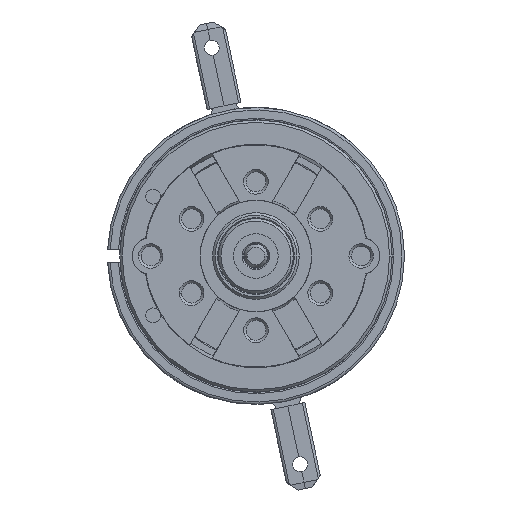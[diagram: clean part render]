
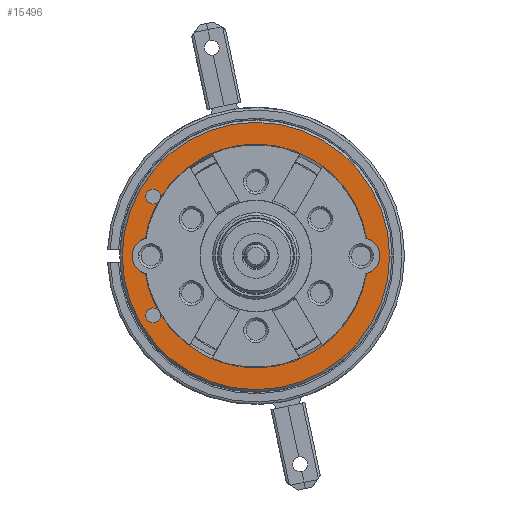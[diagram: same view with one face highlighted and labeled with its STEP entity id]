
A CAD part, left-side view. The second image highlights one B-rep face of the part: STEP entity #15496.
In plain terms, the highlighted planar face has unit normal (-1, 0, 0).
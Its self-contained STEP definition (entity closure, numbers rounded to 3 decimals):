
#4992=CARTESIAN_POINT('',(-29.2,0.,0.));
#4993=DIRECTION('',(-1.,0.,0.));
#4994=DIRECTION('',(0.,1.,0.));
#4995=AXIS2_PLACEMENT_3D('',#4992,#4993,#4994);
#5000=CARTESIAN_POINT('',(-29.2,0.,0.));
#5001=DIRECTION('',(-1.,0.,0.));
#5002=DIRECTION('',(0.,-1.,0.));
#5003=AXIS2_PLACEMENT_3D('',#5000,#5001,#5002);
#5008=CARTESIAN_POINT('',(-29.2,8.31,-4.8));
#5009=DIRECTION('',(-1.,0.,0.));
#5010=DIRECTION('',(0.,1.,0.));
#5011=AXIS2_PLACEMENT_3D('',#5008,#5009,#5010);
#5016=CARTESIAN_POINT('',(-29.2,8.31,-4.8));
#5017=DIRECTION('',(-1.,0.,0.));
#5018=DIRECTION('',(0.,-1.,0.));
#5019=AXIS2_PLACEMENT_3D('',#5016,#5017,#5018);
#5024=CARTESIAN_POINT('',(-29.2,0.,0.));
#5025=DIRECTION('',(1.,0.,0.));
#5026=DIRECTION('',(0.,-0.987,-0.159));
#5027=AXIS2_PLACEMENT_3D('',#5024,#5025,#5026);
#5032=CARTESIAN_POINT('',(-29.2,-8.5,0.));
#5033=DIRECTION('',(-1.,0.,0.));
#5034=DIRECTION('',(0.,-0.29,-0.957));
#5035=AXIS2_PLACEMENT_3D('',#5032,#5033,#5034);
#5040=CARTESIAN_POINT('',(-29.2,0.,0.));
#5041=DIRECTION('',(1.,0.,0.));
#5042=DIRECTION('',(0.,0.852,0.523));
#5043=AXIS2_PLACEMENT_3D('',#5040,#5041,#5042);
#5048=CARTESIAN_POINT('',(-29.2,8.31,4.8));
#5049=DIRECTION('',(1.,0.,0.));
#5050=DIRECTION('',(0.,-1.,0.));
#5051=AXIS2_PLACEMENT_3D('',#5048,#5049,#5050);
#5056=CARTESIAN_POINT('',(-29.2,8.31,4.8));
#5057=DIRECTION('',(1.,0.,0.));
#5058=DIRECTION('',(0.,1.,0.));
#5059=AXIS2_PLACEMENT_3D('',#5056,#5057,#5058);
#5064=CARTESIAN_POINT('',(-29.2,8.31,4.8));
#5065=DIRECTION('',(1.,0.,0.));
#5066=DIRECTION('',(0.,-0.593,-0.805));
#5067=AXIS2_PLACEMENT_3D('',#5064,#5065,#5066);
#5072=CARTESIAN_POINT('',(-29.2,0.,0.));
#5073=DIRECTION('',(1.,0.,0.));
#5074=DIRECTION('',(0.,0.987,0.159));
#5075=AXIS2_PLACEMENT_3D('',#5072,#5073,#5074);
#5080=CARTESIAN_POINT('',(-29.2,8.5,0.));
#5081=DIRECTION('',(-1.,0.,0.));
#5082=DIRECTION('',(0.,0.29,0.957));
#5083=AXIS2_PLACEMENT_3D('',#5080,#5081,#5082);
#5088=CARTESIAN_POINT('',(-29.2,0.,0.));
#5089=DIRECTION('',(1.,0.,0.));
#5090=DIRECTION('',(0.,0.879,-0.477));
#5091=AXIS2_PLACEMENT_3D('',#5088,#5089,#5090);
#5096=CARTESIAN_POINT('',(-29.2,8.31,-4.8));
#5097=DIRECTION('',(-1.,0.,0.));
#5098=DIRECTION('',(0.,-0.593,0.805));
#5099=AXIS2_PLACEMENT_3D('',#5096,#5097,#5098);
#10724=CARTESIAN_POINT('',(-29.2,8.91,4.8));
#10725=CARTESIAN_POINT('',(-29.2,7.71,4.8));
#10726=VERTEX_POINT('',#10724);
#10727=VERTEX_POINT('',#10725);
#10728=CARTESIAN_POINT('',(-29.2,7.714,4.733));
#10729=VERTEX_POINT('',#10728);
#10734=CARTESIAN_POINT('',(-29.2,8.91,-4.8));
#10735=VERTEX_POINT('',#10734);
#10736=CARTESIAN_POINT('',(-29.2,7.71,-4.8));
#10737=VERTEX_POINT('',#10736);
#10738=CARTESIAN_POINT('',(-29.2,7.714,-4.733));
#10739=VERTEX_POINT('',#10738);
#10756=CARTESIAN_POINT('',(-29.2,7.954,4.317));
#10757=VERTEX_POINT('',#10756);
#10758=CARTESIAN_POINT('',(-29.2,7.954,-4.317));
#10759=VERTEX_POINT('',#10758);
#10760=CARTESIAN_POINT('',(-29.2,-8.935,-1.435));
#10761=CARTESIAN_POINT('',(-29.2,-8.935,1.435));
#10762=VERTEX_POINT('',#10760);
#10763=VERTEX_POINT('',#10761);
#10764=CARTESIAN_POINT('',(-29.2,8.935,1.435));
#10765=CARTESIAN_POINT('',(-29.2,8.935,-1.435));
#10766=VERTEX_POINT('',#10764);
#10767=VERTEX_POINT('',#10765);
#10806=CARTESIAN_POINT('',(-29.2,10.8,0.));
#10807=CARTESIAN_POINT('',(-29.2,-10.8,0.));
#10808=VERTEX_POINT('',#10806);
#10809=VERTEX_POINT('',#10807);
#15460=CARTESIAN_POINT('',(-29.2,0.,0.));
#15461=DIRECTION('',(-1.,0.,0.));
#15462=DIRECTION('',(0.,1.,0.));
#15463=AXIS2_PLACEMENT_3D('',#15460,#15461,#15462);
#15464=PLANE('',#15463);
#15466=ORIENTED_EDGE('',*,*,#15465,.F.);
#15467=ORIENTED_EDGE('',*,*,#15443,.F.);
#15468=EDGE_LOOP('',(#15466,#15467));
#15469=FACE_OUTER_BOUND('',#15468,.F.);
#15471=ORIENTED_EDGE('',*,*,#15470,.T.);
#15473=ORIENTED_EDGE('',*,*,#15472,.T.);
#15475=ORIENTED_EDGE('',*,*,#15474,.F.);
#15477=ORIENTED_EDGE('',*,*,#15476,.T.);
#15479=ORIENTED_EDGE('',*,*,#15478,.F.);
#15481=ORIENTED_EDGE('',*,*,#15480,.F.);
#15483=ORIENTED_EDGE('',*,*,#15482,.F.);
#15485=ORIENTED_EDGE('',*,*,#15484,.F.);
#15487=ORIENTED_EDGE('',*,*,#15486,.F.);
#15489=ORIENTED_EDGE('',*,*,#15488,.T.);
#15491=ORIENTED_EDGE('',*,*,#15490,.F.);
#15493=ORIENTED_EDGE('',*,*,#15492,.T.);
#15494=EDGE_LOOP('',(#15471,#15473,#15475,#15477,#15479,#15481,#15483,#15485,
#15487,#15489,#15491,#15493));
#15495=FACE_BOUND('',#15494,.F.);
#15496=ADVANCED_FACE('',(#15469,#15495),#15464,.T.);
#4996=CIRCLE('',#4995,10.8);
#5004=CIRCLE('',#5003,10.8);
#5012=CIRCLE('',#5011,0.6);
#5020=CIRCLE('',#5019,0.6);
#5028=CIRCLE('',#5027,9.05);
#5036=CIRCLE('',#5035,1.5);
#5044=CIRCLE('',#5043,9.05);
#5052=CIRCLE('',#5051,0.6);
#5060=CIRCLE('',#5059,0.6);
#5068=CIRCLE('',#5067,0.6);
#5076=CIRCLE('',#5075,9.05);
#5084=CIRCLE('',#5083,1.5);
#5092=CIRCLE('',#5091,9.05);
#5100=CIRCLE('',#5099,0.6);
#15443=EDGE_CURVE('',#10809,#10808,#5004,.T.);
#15465=EDGE_CURVE('',#10808,#10809,#4996,.T.);
#15470=EDGE_CURVE('',#10735,#10737,#5012,.T.);
#15472=EDGE_CURVE('',#10737,#10739,#5020,.T.);
#15474=EDGE_CURVE('',#10762,#10739,#5028,.T.);
#15476=EDGE_CURVE('',#10762,#10763,#5036,.T.);
#15478=EDGE_CURVE('',#10729,#10763,#5044,.T.);
#15480=EDGE_CURVE('',#10727,#10729,#5052,.T.);
#15482=EDGE_CURVE('',#10726,#10727,#5060,.T.);
#15484=EDGE_CURVE('',#10757,#10726,#5068,.T.);
#15486=EDGE_CURVE('',#10766,#10757,#5076,.T.);
#15488=EDGE_CURVE('',#10766,#10767,#5084,.T.);
#15490=EDGE_CURVE('',#10759,#10767,#5092,.T.);
#15492=EDGE_CURVE('',#10759,#10735,#5100,.T.);
